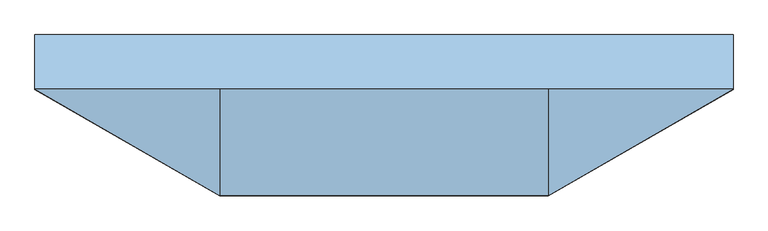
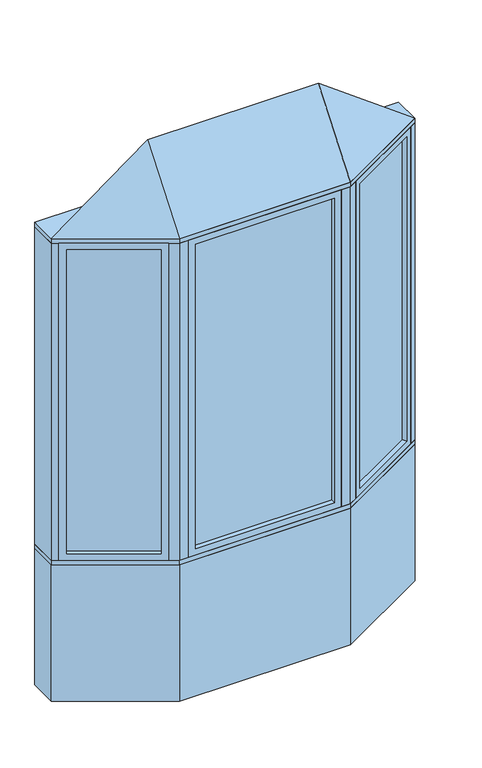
"""IFC4 building model written with IfcOpenShell, lengths in millimetres: window geometry, Pollard_Windows_Tudor Casement Bows and Bays : AML-BAY 30 AFR0618-08-500."""

from ifc_helpers import new_model, si_unit, frame, origin, origin_with_axes, place, context, project, spatial, polyline, outline, extrude, faceted_brep, source, transform, mapped, element, save


def window_50e5a4c0(model_context):
    return source(origin(), model_context, "Body", "SolidModel", [
        extrude(outline(polyline([(913.112102, -82.0482469), (510.2320119, -314.6511754), (507.6920119, -310.2517664), (910.572102, -77.6488379), (913.112102, -82.0482469)])), frame((0.0, 0.0, 823.1628), z_axis=(0.0, 0.0, 1.0), x_axis=(1.0, 0.0, 0.0)), (0.0, 0.0, 1.0), 1753.6704),
        faceted_brep([(902.1135794, -88.3982469, 835.8628), (914.8135794, -110.3952922, 835.8628), (914.8135794, -110.3952922, 2564.1332), (902.1135794, -88.3982469, 2564.1332), (910.572102, -77.6488379, 823.1628), (913.112102, -82.0482469, 823.1628), (913.112102, -82.0482469, 2576.8332), (910.572102, -77.6488379, 2576.8332), (886.8735794, -62.0017926, 835.8628), (899.5735794, -83.9988379, 835.8628), (899.5735794, -83.9988379, 2564.1332), (886.8735794, -62.0017926, 2564.1332), (945.8734073, -92.4628922, 799.998), (917.9334073, -44.0693926, 799.998), (917.9334073, -44.0693926, 2599.998), (945.8734073, -92.4628922, 2599.998), (533.9305346, -330.2982207, 2564.1332), (521.2305346, -308.3011754, 2564.1332), (510.2320119, -314.6511754, 2576.8332), (507.6920119, -310.2517664, 2576.8332), (518.6905346, -303.9017664, 2564.1332), (505.9905346, -281.9047211, 2564.1332), (474.9307067, -299.8371211, 2599.998), (502.8707067, -348.2306207, 2599.998), (533.9305346, -330.2982207, 835.8628), (521.2305346, -308.3011754, 835.8628), (510.2320119, -314.6511754, 823.1628), (507.6920119, -310.2517664, 823.1628), (518.6905346, -303.9017664, 835.8628), (505.9905346, -281.9047211, 835.8628), (474.9307067, -299.8371211, 799.998), (502.8707067, -348.2306207, 799.998)], [[[0, 1, 2, 3]], [[4, 5, 6, 7]], [[8, 9, 10, 11]], [[12, 13, 14, 15]], [[3, 2, 16, 17]], [[7, 6, 18, 19]], [[11, 10, 20, 21]], [[15, 14, 22, 23]], [[17, 16, 24, 25]], [[19, 18, 26, 27]], [[21, 20, 28, 29]], [[23, 22, 30, 31]], [[25, 24, 1, 0]], [[5, 26, 18, 6], [3, 17, 25, 0]], [[27, 26, 5, 4]], [[7, 19, 27, 4], [9, 28, 20, 10]], [[29, 28, 9, 8]], [[13, 30, 22, 14], [11, 21, 29, 8]], [[31, 30, 13, 12]], [[15, 23, 31, 12], [1, 24, 16, 2]]]),
        extrude(outline(polyline([(-510.2320119, -314.6511754), (-913.112102, -82.0482469), (-910.572102, -77.6488379), (-507.6920119, -310.2517664), (-510.2320119, -314.6511754)])), frame((0.0, 0.0, 823.1628), z_axis=(0.0, 0.0, 1.0), x_axis=(1.0, 0.0, 0.0)), (0.0, 0.0, 1.0), 1753.6704),
        faceted_brep([(-518.6905346, -303.9017664, 2564.1332), (-505.9905346, -281.9047211, 2564.1332), (-505.9905346, -281.9047211, 835.8628), (-518.6905346, -303.9017664, 835.8628), (-510.2320119, -314.6511754, 2576.8332), (-507.6920119, -310.2517664, 2576.8332), (-507.6920119, -310.2517664, 823.1628), (-510.2320119, -314.6511754, 823.1628), (-533.9305346, -330.2982207, 2564.1332), (-521.2305346, -308.3011754, 2564.1332), (-521.2305346, -308.3011754, 835.8628), (-533.9305346, -330.2982207, 835.8628), (-474.9307067, -299.8371211, 2599.998), (-502.8707067, -348.2306207, 2599.998), (-502.8707067, -348.2306207, 799.998), (-474.9307067, -299.8371211, 799.998), (-886.8735794, -62.0017926, 835.8628), (-899.5735794, -83.9988379, 835.8628), (-910.572102, -77.6488379, 823.1628), (-913.112102, -82.0482469, 823.1628), (-902.1135794, -88.3982469, 835.8628), (-914.8135794, -110.3952922, 835.8628), (-945.8734073, -92.4628922, 799.998), (-917.9334073, -44.0693926, 799.998), (-886.8735794, -62.0017926, 2564.1332), (-899.5735794, -83.9988379, 2564.1332), (-910.572102, -77.6488379, 2576.8332), (-913.112102, -82.0482469, 2576.8332), (-902.1135794, -88.3982469, 2564.1332), (-914.8135794, -110.3952922, 2564.1332), (-945.8734073, -92.4628922, 2599.998), (-917.9334073, -44.0693926, 2599.998)], [[[0, 1, 2, 3]], [[4, 5, 6, 7]], [[8, 9, 10, 11]], [[12, 13, 14, 15]], [[3, 2, 16, 17]], [[7, 6, 18, 19]], [[11, 10, 20, 21]], [[15, 14, 22, 23]], [[17, 16, 24, 25]], [[19, 18, 26, 27]], [[21, 20, 28, 29]], [[23, 22, 30, 31]], [[15, 23, 31, 12], [1, 24, 16, 2]], [[25, 24, 1, 0]], [[5, 26, 18, 6], [3, 17, 25, 0]], [[27, 26, 5, 4]], [[7, 19, 27, 4], [9, 28, 20, 10]], [[29, 28, 9, 8]], [[13, 30, 22, 14], [11, 21, 29, 8]], [[31, 30, 13, 12]]]),
        extrude(outline(polyline([(386.4046365, -347.8306207), (-386.4046365, -347.8306207), (-386.4046365, -342.7506207), (386.4046365, -342.7506207), (386.4046365, -347.8306207)])), frame((0.0, 0.0, 823.1628), z_axis=(0.0, 0.0, 1.0), x_axis=(1.0, 0.0, 0.0)), (0.0, 0.0, 1.0), 1753.6704),
        faceted_brep([(373.7046365, -347.8306207, 835.8628), (373.7046365, -373.2306207, 835.8628), (373.7046365, -373.2306207, 2564.1332), (373.7046365, -347.8306207, 2564.1332), (386.4046365, -342.7506207, 823.1628), (386.4046365, -347.8306207, 823.1628), (386.4046365, -347.8306207, 2576.8332), (386.4046365, -342.7506207, 2576.8332), (373.7046365, -317.3506207, 835.8628), (373.7046365, -342.7506207, 835.8628), (373.7046365, -342.7506207, 2564.1332), (373.7046365, -317.3506207, 2564.1332), (409.5694365, -373.2306207, 799.998), (409.5694365, -317.3506207, 799.998), (409.5694365, -317.3506207, 2599.998), (409.5694365, -373.2306207, 2599.998), (-373.7046365, -373.2306207, 2564.1332), (-373.7046365, -347.8306207, 2564.1332), (-386.4046365, -347.8306207, 2576.8332), (-386.4046365, -342.7506207, 2576.8332), (-373.7046365, -342.7506207, 2564.1332), (-373.7046365, -317.3506207, 2564.1332), (-409.5694365, -317.3506207, 2599.998), (-409.5694365, -373.2306207, 2599.998), (-373.7046365, -373.2306207, 835.8628), (-373.7046365, -347.8306207, 835.8628), (-386.4046365, -347.8306207, 823.1628), (-386.4046365, -342.7506207, 823.1628), (-373.7046365, -342.7506207, 835.8628), (-373.7046365, -317.3506207, 835.8628), (-409.5694365, -317.3506207, 799.998), (-409.5694365, -373.2306207, 799.998)], [[[0, 1, 2, 3]], [[4, 5, 6, 7]], [[8, 9, 10, 11]], [[12, 13, 14, 15]], [[3, 2, 16, 17]], [[7, 6, 18, 19]], [[11, 10, 20, 21]], [[15, 14, 22, 23]], [[17, 16, 24, 25]], [[19, 18, 26, 27]], [[21, 20, 28, 29]], [[23, 22, 30, 31]], [[15, 23, 31, 12], [1, 24, 16, 2]], [[25, 24, 1, 0]], [[5, 26, 18, 6], [3, 17, 25, 0]], [[27, 26, 5, 4]], [[7, 19, 27, 4], [9, 28, 20, 10]], [[29, 28, 9, 8]], [[13, 30, 22, 14], [11, 21, 29, 8]], [[31, 30, 13, 12]]]),
        faceted_brep([(976.5, -74.7806207, 2625.398), (459.5694365, -373.2306207, 2625.398), (-459.5694365, -373.2306207, 2625.398), (-976.5, -74.7806207, 2625.398), (-459.5694365, -74.7806207, 3006.398), (459.5694365, -74.7806207, 3006.398)], [[[0, 1, 2, 3]], [[3, 2, 4]], [[2, 1, 5, 4]], [[1, 0, 5]], [[0, 3, 4, 5]]]),
        extrude(outline(polyline([(-976.5, 77.6193793), (976.5, 77.6193793), (976.5, -74.7806207), (459.5694365, -373.2306207), (-459.5694365, -373.2306207), (-976.5, -74.7806207), (-976.5, 77.6193793)])), frame((0.0, 0.0, 2599.998), z_axis=(0.0, 0.0, 1.0), x_axis=(1.0, 0.0, 0.0)), (0.0, 0.0, 1.0), 25.4),
        extrude(outline(polyline([(-976.5, -74.7806207), (-976.5, 77.6193793), (-935.6645431, 77.6193793), (-935.6645431, -74.7806207), (-945.8734073, -92.4628922), (-976.5, -74.7806207)])), frame((0.0, 0.0, 799.998), z_axis=(0.0, 0.0, 1.0), x_axis=(1.0, 0.0, 0.0)), (0.0, 0.0, 1.0), 1800.0),
        extrude(outline(polyline([(976.5, 77.6193793), (976.5, -74.7806207), (945.8734073, -92.4628922), (935.6645431, -74.7806207), (935.6645431, 77.6193793), (976.5, 77.6193793)])), frame((0.0, 0.0, 799.998), z_axis=(0.0, 0.0, 1.0), x_axis=(1.0, 0.0, 0.0)), (0.0, 0.0, 1.0), 1800.0),
        extrude(outline(polyline([(459.5694365, -373.2306207), (409.5694365, -373.2306207), (409.5694365, -323.2306207), (446.1719769, -323.2306207), (477.8707067, -304.9293505), (502.8707067, -348.2306207), (459.5694365, -373.2306207)])), frame((0.0, 0.0, 799.998), z_axis=(0.0, 0.0, 1.0), x_axis=(1.0, 0.0, 0.0)), (0.0, 0.0, 1.0), 1800.0),
        extrude(outline(polyline([(-459.5694365, -373.2306207), (-502.8707067, -348.2306207), (-477.8707067, -304.9293505), (-446.1719769, -323.2306207), (-409.5694365, -323.2306207), (-409.5694365, -373.2306207), (-459.5694365, -373.2306207)])), frame((0.0, 0.0, 799.998), z_axis=(0.0, 0.0, 1.0), x_axis=(1.0, 0.0, 0.0)), (0.0, 0.0, 1.0), 1800.0),
        extrude(outline(polyline([(-459.5694365, -373.2306207), (-976.5, -74.7806207), (-976.5, 77.6193793), (-935.6645431, 77.6193793), (-418.7339796, -220.8306207), (418.7339796, -220.8306207), (935.6645431, 77.6193793), (976.5, 77.6193793), (976.5, -74.7806207), (459.5694365, -373.2306207), (-459.5694365, -373.2306207)])), frame((0.0, 0.0, 774.598), z_axis=(0.0, 0.0, 1.0), x_axis=(1.0, 0.0, 0.0)), (0.0, 0.0, 1.0), 25.4),
        extrude(outline(polyline([(-976.5, -74.7806207), (-976.5, 77.6193793), (-935.6645431, 77.6193793), (-418.7339796, -220.8306207), (418.7339796, -220.8306207), (935.6645431, 77.6193793), (976.5, 77.6193793), (976.5, -74.7806207), (459.5694365, -373.2306207), (-459.5694365, -373.2306207), (-976.5, -74.7806207)])), origin_with_axes(), (0.0, 0.0, 1.0), 774.598),
    ])


if __name__ == "__main__":
    model = new_model("IFC4")
    model_context = context("Model", 3, world=origin())
    ifc_project = project(units=[si_unit("LENGTHUNIT", "METRE", prefix="MILLI")], contexts=[model_context])
    site = spatial("IfcSite", under=ifc_project)
    building = spatial("IfcBuilding", under=site)
    placement = place(None, origin())
    window_shape = window_50e5a4c0(model_context)
    element("IfcWindow", 1, ObjectType="Pollard_Windows_Tudor Casement Bows and Bays : AML-BAY 30 AFR0618-08-500", at=placement, inside=building, context=model_context, shape_type="MappedRepresentation", body=[
        mapped(window_shape, transform((0.0, 0.0, 0.0), x_axis=(1.0, 0.0, 0.0), y_axis=(0.0, 1.0, 0.0), z_axis=(0.0, 0.0, 1.0))),
    ])
    save(model, "model.ifc")
